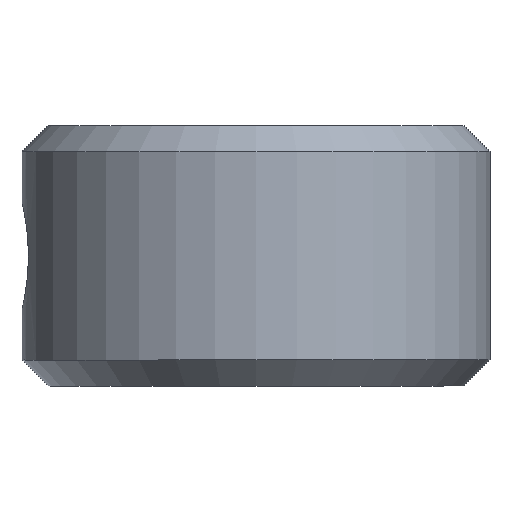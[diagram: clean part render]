
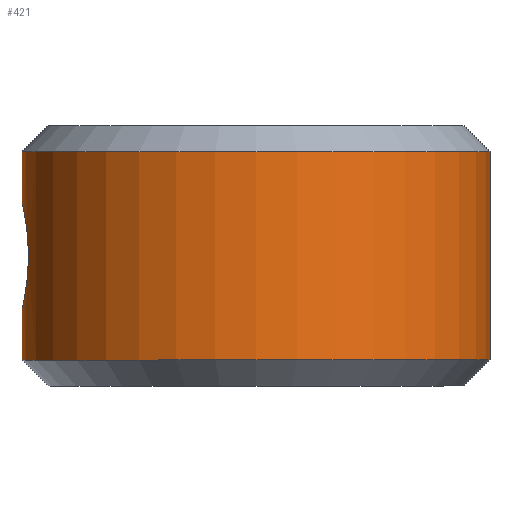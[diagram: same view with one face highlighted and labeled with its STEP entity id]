
A CAD part, front view. The second image highlights one B-rep face of the part: STEP entity #421.
In plain terms, the highlighted cylindrical face has radius 9 mm (diameter 18 mm), a partial arc.
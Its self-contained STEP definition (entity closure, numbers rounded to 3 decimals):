
#42=CARTESIAN_POINT('Vertex',(-8.759,-2.067,5.)) ;
#79=CARTESIAN_POINT('Vertex',(-9.,0.,2.933)) ;
#83=CARTESIAN_POINT('Control Point',(-8.759,-2.067,5.)) ;
#84=CARTESIAN_POINT('Control Point',(-8.759,-2.067,4.349)) ;
#85=CARTESIAN_POINT('Control Point',(-8.82,-1.808,3.697)) ;
#86=CARTESIAN_POINT('Control Point',(-8.942,-1.303,3.192)) ;
#87=CARTESIAN_POINT('Control Point',(-9.,-0.652,2.933)) ;
#88=CARTESIAN_POINT('Control Point',(-9.,0.,2.933)) ;
#126=CARTESIAN_POINT('Control Point',(-9.,0.,7.067)) ;
#127=CARTESIAN_POINT('Control Point',(-9.,-0.652,7.067)) ;
#128=CARTESIAN_POINT('Control Point',(-8.942,-1.303,6.808)) ;
#129=CARTESIAN_POINT('Control Point',(-8.82,-1.808,6.303)) ;
#130=CARTESIAN_POINT('Control Point',(-8.759,-2.067,5.651)) ;
#131=CARTESIAN_POINT('Control Point',(-8.759,-2.067,5.)) ;
#132=CARTESIAN_POINT('Vertex',(-9.,0.,7.067)) ;
#267=CARTESIAN_POINT('Vertex',(-9.,0.,9.)) ;
#270=CARTESIAN_POINT('Axis2P3D Location',(0.,0.,9.)) ;
#274=CARTESIAN_POINT('Vertex',(9.,0.,9.)) ;
#315=CARTESIAN_POINT('Vertex',(-9.,0.,1.)) ;
#331=CARTESIAN_POINT('Vertex',(9.,0.,1.)) ;
#334=CARTESIAN_POINT('Axis2P3D Location',(0.,0.,1.)) ;
#382=CARTESIAN_POINT('Axis2P3D Location',(0.,0.,5.)) ;
#387=CARTESIAN_POINT('Line Origine',(-9.,0.,5.)) ;
#392=CARTESIAN_POINT('Line Origine',(9.,0.,5.)) ;
#397=CARTESIAN_POINT('Line Origine',(-9.,0.,5.)) ;
#389=VECTOR('Line Direction',#388,1.) ;
#394=VECTOR('Line Direction',#393,1.) ;
#399=VECTOR('Line Direction',#398,1.) ;
#271=DIRECTION('Axis2P3D Direction',(0.,0.,1.)) ;
#335=DIRECTION('Axis2P3D Direction',(0.,0.,1.)) ;
#383=DIRECTION('Axis2P3D Direction',(0.,0.,1.)) ;
#384=DIRECTION('Axis2P3D XDirection',(1.,0.,0.)) ;
#388=DIRECTION('Vector Direction',(0.,0.,1.)) ;
#393=DIRECTION('Vector Direction',(0.,0.,1.)) ;
#398=DIRECTION('Vector Direction',(0.,0.,1.)) ;
#272=AXIS2_PLACEMENT_3D('Circle Axis2P3D',#270,#271,$) ;
#336=AXIS2_PLACEMENT_3D('Circle Axis2P3D',#334,#335,$) ;
#385=AXIS2_PLACEMENT_3D('Cylinder Axis2P3D',#382,#383,#384) ;
#390=LINE('Line',#387,#389) ;
#395=LINE('Line',#392,#394) ;
#400=LINE('Line',#397,#399) ;
#273=CIRCLE('generated circle',#272,9.) ;
#337=CIRCLE('generated circle',#336,9.) ;
#386=CYLINDRICAL_SURFACE('generated cylinder',#385,9.) ;
#89=EDGE_CURVE('',#43,#80,#82,.T.) ;
#134=EDGE_CURVE('',#133,#43,#125,.T.) ;
#276=EDGE_CURVE('',#268,#275,#273,.T.) ;
#338=EDGE_CURVE('',#316,#332,#337,.T.) ;
#391=EDGE_CURVE('',#133,#268,#390,.T.) ;
#396=EDGE_CURVE('',#332,#275,#395,.T.) ;
#401=EDGE_CURVE('',#316,#80,#400,.T.) ;
#412=EDGE_LOOP('',(#413,#414,#415,#416,#417,#418,#419)) ;
#413=ORIENTED_EDGE('',*,*,#401,.F.) ;
#414=ORIENTED_EDGE('',*,*,#338,.T.) ;
#415=ORIENTED_EDGE('',*,*,#396,.T.) ;
#416=ORIENTED_EDGE('',*,*,#276,.F.) ;
#417=ORIENTED_EDGE('',*,*,#391,.F.) ;
#418=ORIENTED_EDGE('',*,*,#134,.T.) ;
#419=ORIENTED_EDGE('',*,*,#89,.T.) ;
#43=VERTEX_POINT('',#42) ;
#80=VERTEX_POINT('',#79) ;
#133=VERTEX_POINT('',#132) ;
#268=VERTEX_POINT('',#267) ;
#275=VERTEX_POINT('',#274) ;
#316=VERTEX_POINT('',#315) ;
#332=VERTEX_POINT('',#331) ;
#421=ADVANCED_FACE('PartBody',(#420),#386,.T.) ;
#82=B_SPLINE_CURVE_WITH_KNOTS('',5,(#83,#84,#85,#86,#87,#88),.UNSPECIFIED.,.F.,.U.,(6,6),(9.214,13.822),.UNSPECIFIED.) ;
#125=B_SPLINE_CURVE_WITH_KNOTS('',5,(#126,#127,#128,#129,#130,#131),.UNSPECIFIED.,.F.,.U.,(6,6),(4.607,9.214),.UNSPECIFIED.) ;
#420=FACE_OUTER_BOUND('',#412,.T.) ;
